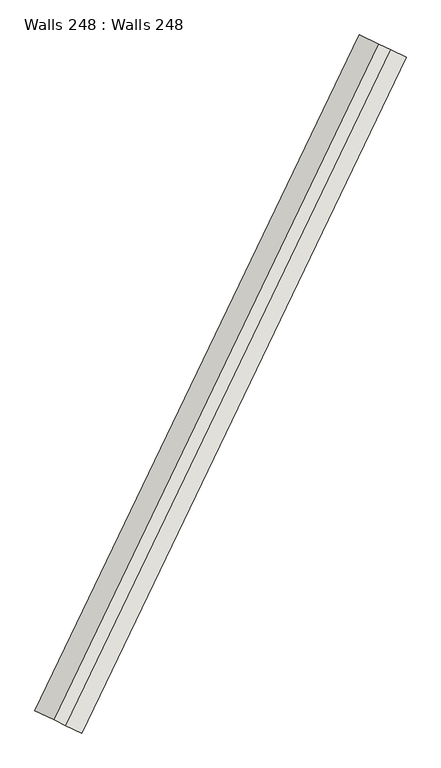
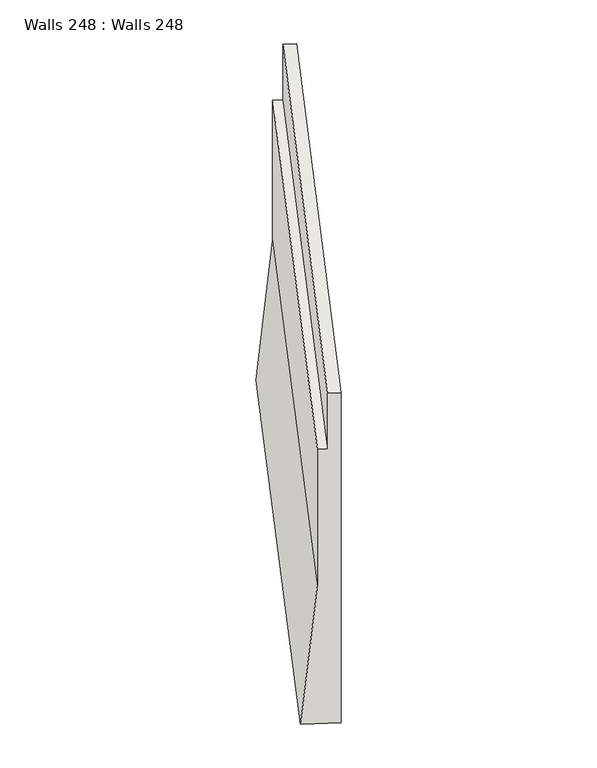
"""IFC4 building model written with IfcOpenShell, lengths in millimetres: wall geometry, Walls 248 : Walls 248."""

from ifc_helpers import new_model, si_unit, origin, place, context, project, spatial, faceted_brep, source, transform, mapped, element, save


def walls_248_walls_248_7609e394(model_context):
    return source(origin(), model_context, "Body", "Brep", [
        faceted_brep([(422596.8916064, 360369.905407, 652730.0), (422416.6099999, 360456.4995312, 652730.0), (422416.6099999, 360456.4995312, 651730.0), (422281.398795, 360521.4451245, 651730.0), (422281.398795, 360521.4451245, 649290.0), (422056.0467869, 360629.6877798, 646790.0), (422596.8916064, 360369.905407, 646790.0), (426363.7360119, 368212.1552884, 652940.0), (426363.7360119, 368212.1552884, 646910.0), (425822.8911924, 368471.9376613, 646910.0), (426048.2432005, 368363.6950059, 649410.0), (426048.2432005, 368363.6950059, 651940.0), (426183.4544054, 368298.7494127, 651940.0), (426183.4544054, 368298.7494127, 652940.0)], [[[0, 1, 2, 3, 4, 5, 6]], [[7, 8, 9, 10, 11, 12, 13]], [[7, 13, 1, 0]], [[13, 12, 2, 1]], [[12, 11, 3, 2]], [[11, 10, 4, 3]], [[10, 9, 5, 4]], [[8, 7, 0, 6]], [[9, 8, 6, 5]]]),
    ])


if __name__ == "__main__":
    model = new_model("IFC4")
    model_context = context("Model", 3, world=origin())
    ifc_project = project(units=[si_unit("LENGTHUNIT", "METRE", prefix="MILLI")], contexts=[model_context])
    site = spatial("IfcSite", under=ifc_project)
    building = spatial("IfcBuilding", under=site)
    placement = place(None, origin())
    walls_248_walls_248_shape = walls_248_walls_248_7609e394(model_context)
    element("IfcWall", 1, ObjectType="Walls 248 : Walls 248", at=placement, inside=building, context=model_context, shape_type="MappedRepresentation", body=[
        mapped(walls_248_walls_248_shape, transform((0.0, 0.0, 0.0), x_axis=(1.0, 0.0, 0.0), y_axis=(0.0, 1.0, 0.0), z_axis=(0.0, 0.0, 1.0))),
    ])
    save(model, "model.ifc")
